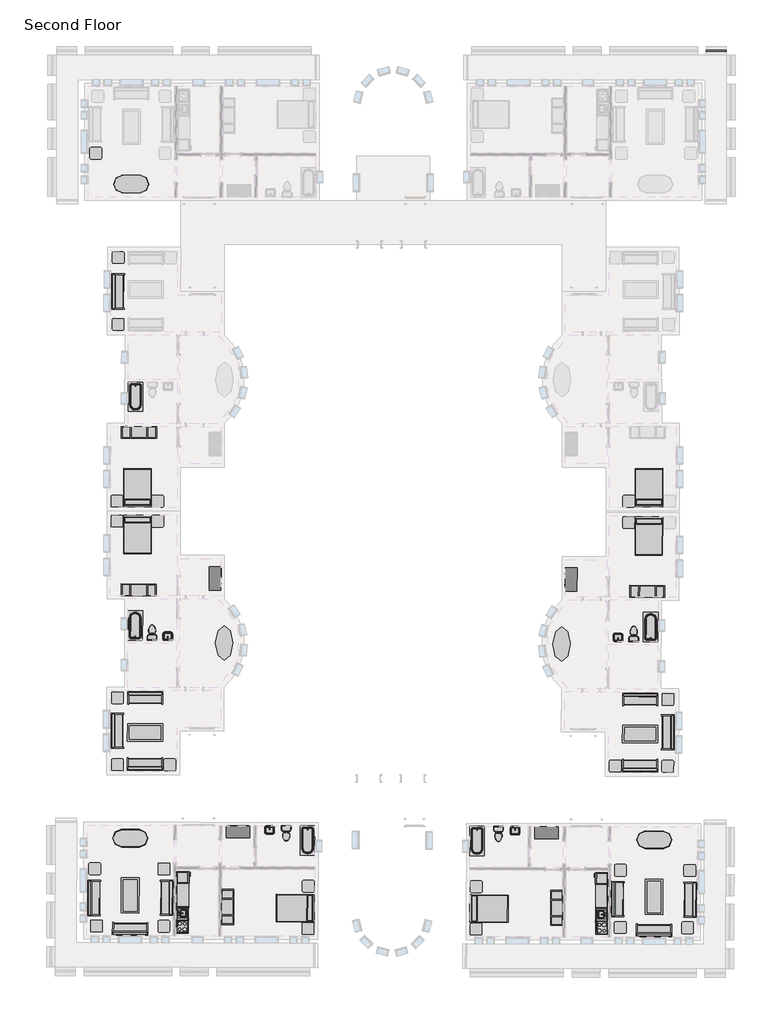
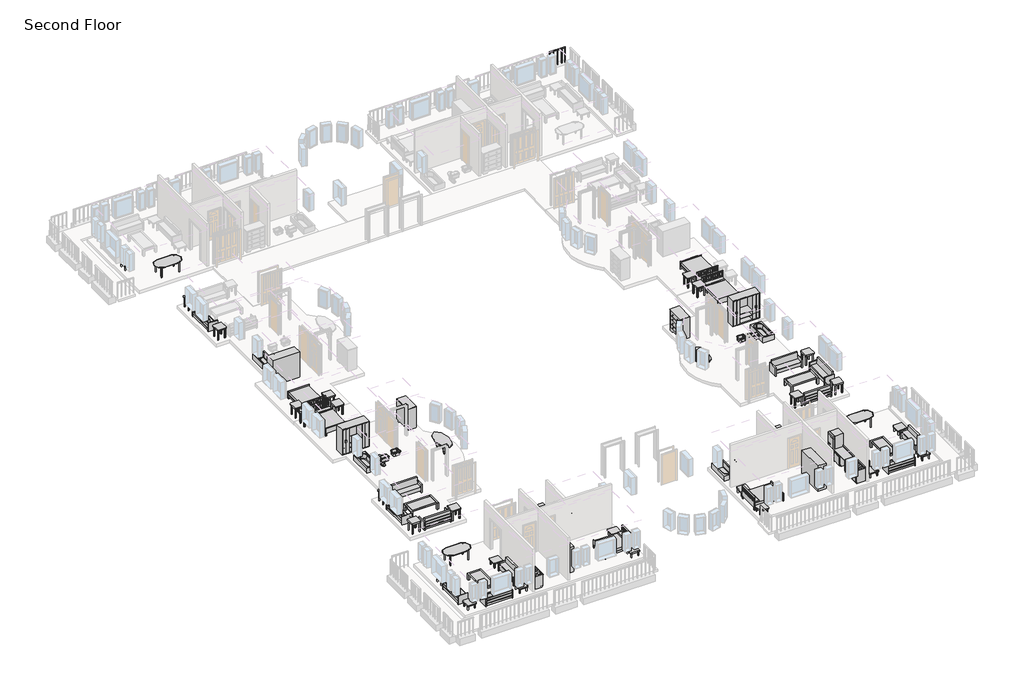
# One storey, part 7 of 8: 66 furniture elements, 15 flow terminals, 8 proxies, 1 railing.
"""IFC4 building model written with IfcOpenShell, lengths in millimetres."""

from ifc_helpers import new_model, si_unit, frame, origin, place, context, project, spatial, polyline, outline, extrude, transform, mapped, element, save
from components import m_cook_top_4_unit2_0615_x_500mm_249f3515, m_cook_top_4_unit2_0615_x_500mm_c91639ce, m_dishwasher_610_x_610_x_875mm_54ecfc4c, m_dishwasher_610_x_610_x_875mm_75336c20, m_kitchenette_medium_1372mm_e05c6bec, m_kitchenette_medium_1372mm_39f1532f, m_refrigerator_600_x_660mm_a466bf94, m_refrigerator_600_x_660mm_0a899b9c, m_sink_kitchen_island_450_x_450mm_f969cf2d, m_sink_kitchen_island_450_x_450mm_f6c2c534, m_sink_vanity_square_500_x_440mm_1e229b74, m_sink_vanity_square_500_x_440mm_f3cfe680, m_toilet_domestic_3d_m_toilet_domestic_3d_5cb52bd4, m_toilet_domestic_3d_m_toilet_domestic_3d_183bbd19, m_toilet_domestic_3d_m_toilet_domestic_3d_43425dfb, m_toilet_domestic_3d_m_toilet_domestic_3d_5530cc89, m_tub_rectangular_3d_m_tub_rectangular_3d_3a981ad5, m_tub_rectangular_3d_m_tub_rectangular_3d_c2020133, m_bed_shaker_1422_x_1981mm_double_096e7f55, m_bed_shaker_1422_x_1981mm_double_097b173b, m_counter_top_w_sink_hole_600mm_depth_1fb56bb9, m_counter_top_w_sink_hole_600mm_depth_7e9aa94d, m_dresser_1220_x_1525_x_0610mm_18e1f140, m_dresser_1220_x_1525_x_0610mm_4e5de046, m_entertainment_center_1830_x_1830_x_0610mm_f77a9b93, m_entertainment_center_1830_x_1830_x_0610mm_4f6058a0, m_sofa_1830mm_58d08fc1, m_sofa_1830mm_3da2e71b, m_sofa1_1830mm_f9e8a66b, m_sofa1_1830mm_493d6964, m_table_coffee_0915_x_1830_x_0457mm_134cd960, m_table_coffee_0915_x_1830_x_0457mm_595c1ebd, m_table_dining_oval_0915_x_1830mm_a7cfbe21, m_table_dining_oval_0915_x_1830mm_ad8305c5, m_table_ellipse_1800_x_900mm_fd46d5a5, m_table_ellipse_1800_x_900mm_f7269293, m_table_end_cb6ea12e, m_table_end_aa2764bc, m_table_end_0610_x_0160mm_e0e5b28f, m_table_end_0610_x_0160mm_ccef8dc9

model = new_model("IFC4")

# Units and contexts
model_context = context("Model", 3, world=origin())
ifc_project = project(units=[si_unit("LENGTHUNIT", "METRE", prefix="MILLI")], contexts=[model_context])

# Site, building, storey
site = spatial("IfcSite", under=ifc_project)
building = spatial("IfcBuilding", under=site)
storey = spatial("IfcBuildingStorey", under=building, Name="Second Floor", Elevation=3048.0)

# Proxies
placement = place(None, origin())
m_cook_top_4_unit2_0615_x_500mm_shape = m_cook_top_4_unit2_0615_x_500mm_249f3515(model_context)
element("IfcBuildingElementProxy", 1, Name="M_Cook Top-4 Unit2 : 0615 x 500mm", ObjectType="M_Cook Top-4 Unit2 : 0615 x 500mm", at=placement, inside=storey, context=model_context, shape_type="MappedRepresentation", body=[
    mapped(m_cook_top_4_unit2_0615_x_500mm_shape, transform((-29921.672142, -41252.4695151, 3048.0), x_axis=(0.0028948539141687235, 0.9999958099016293, 0.0), y_axis=(-0.9999958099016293, 0.0028948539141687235, 0.0), z_axis=(0.0, 0.0, 1.0))),
])
m_cook_top_4_unit2_0615_x_500mm_2_shape = m_cook_top_4_unit2_0615_x_500mm_c91639ce(model_context)
element("IfcBuildingElementProxy", 2, Name="M_Cook Top-4 Unit2 : 0615 x 500mm", ObjectType="M_Cook Top-4 Unit2 : 0615 x 500mm", at=placement, inside=storey, context=model_context, shape_type="MappedRepresentation", body=[
    mapped(m_cook_top_4_unit2_0615_x_500mm_2_shape, transform((-8117.5635037, -41315.5894888, 3048.0), x_axis=(0.0028948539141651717, 0.9999958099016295, 0.0), y_axis=(-0.9999958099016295, 0.0028948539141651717, 0.0), z_axis=(0.0, 0.0, 1.0))),
])
m_dishwasher_610_x_610_x_875mm_shape = m_dishwasher_610_x_610_x_875mm_54ecfc4c(model_context)
element("IfcBuildingElementProxy", 3, Name="M_Dishwasher : 610 x 610 x 875mm", ObjectType="M_Dishwasher : 610 x 610 x 875mm", at=placement, inside=storey, context=model_context, shape_type="MappedRepresentation", body=[
    mapped(m_dishwasher_610_x_610_x_875mm_shape, transform((-29650.5063255, -39692.7654337, 3048.0), x_axis=(0.0028948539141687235, 0.9999958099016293, 0.0), y_axis=(-0.9999958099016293, 0.0028948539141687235, 0.0), z_axis=(0.0, 0.0, 1.0))),
])
m_dishwasher_610_x_610_x_875mm_2_shape = m_dishwasher_610_x_610_x_875mm_75336c20(model_context)
element("IfcBuildingElementProxy", 4, Name="M_Dishwasher : 610 x 610 x 875mm", ObjectType="M_Dishwasher : 610 x 610 x 875mm", at=placement, inside=storey, context=model_context, shape_type="MappedRepresentation", body=[
    mapped(m_dishwasher_610_x_610_x_875mm_2_shape, transform((-8379.6945822, -39754.3415843, 3048.0), x_axis=(0.0028948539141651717, 0.9999958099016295, 0.0), y_axis=(-0.9999958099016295, 0.0028948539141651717, 0.0), z_axis=(0.0, 0.0, 1.0))),
])
m_kitchenette_medium_1372mm_shape = m_kitchenette_medium_1372mm_e05c6bec(model_context)
element("IfcBuildingElementProxy", 5, Name="M_Kitchenette - Medium : 1372mm", ObjectType="M_Kitchenette - Medium : 1372mm", at=placement, inside=storey, context=model_context, shape_type="MappedRepresentation", body=[
    mapped(m_kitchenette_medium_1372mm_shape, transform((-30225.732172, -40927.3256482, 3048.0), x_axis=(0.0028948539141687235, 0.9999958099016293, 0.0), y_axis=(-0.9999958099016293, 0.0028948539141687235, 0.0), z_axis=(0.0, 0.0, 1.0))),
])
m_kitchenette_medium_1372mm_2_shape = m_kitchenette_medium_1372mm_39f1532f(model_context)
element("IfcBuildingElementProxy", 6, Name="M_Kitchenette - Medium : 1372mm", ObjectType="M_Kitchenette - Medium : 1372mm", at=placement, inside=storey, context=model_context, shape_type="MappedRepresentation", body=[
    mapped(m_kitchenette_medium_1372mm_2_shape, transform((-7811.6260897, -40992.2114828, 3048.0), x_axis=(0.0028948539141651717, 0.9999958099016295, 0.0), y_axis=(-0.9999958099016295, 0.0028948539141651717, 0.0), z_axis=(0.0, 0.0, 1.0))),
])
m_refrigerator_600_x_660mm_shape = m_refrigerator_600_x_660mm_a466bf94(model_context)
element("IfcBuildingElementProxy", 7, Name="M_Refrigerator : 600 x 660mm", ObjectType="M_Refrigerator : 600 x 660mm", at=placement, inside=storey, context=model_context, shape_type="MappedRepresentation", body=[
    mapped(m_refrigerator_600_x_660mm_shape, transform((-29922.9251807, -38650.6538432, 3048.0), x_axis=(0.0028948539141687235, 0.9999958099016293, 0.0), y_axis=(-0.9999958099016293, 0.0028948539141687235, 0.0), z_axis=(0.0, 0.0, 1.0))),
])
m_refrigerator_600_x_660mm_2_shape = m_refrigerator_600_x_660mm_0a899b9c(model_context)
element("IfcBuildingElementProxy", 8, Name="M_Refrigerator : 600 x 660mm", ObjectType="M_Refrigerator : 600 x 660mm", at=placement, inside=storey, context=model_context, shape_type="MappedRepresentation", body=[
    mapped(m_refrigerator_600_x_660mm_2_shape, transform((-8101.2467965, -38713.824679, 3048.0), x_axis=(0.0028948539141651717, 0.9999958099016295, 0.0), y_axis=(-0.9999958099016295, 0.0028948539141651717, 0.0), z_axis=(0.0, 0.0, 1.0))),
])

# Flow terminals
m_sink_kitchen_island_450_x_450mm_shape = m_sink_kitchen_island_450_x_450mm_f969cf2d(model_context)
element("IfcFlowTerminal", 9, ObjectType="M_Sink Kitchen-Island : 450 x 450mm", at=placement, inside=storey, context=model_context, shape_type="MappedRepresentation", body=[
    mapped(m_sink_kitchen_island_450_x_450mm_shape, transform((-29917.3862989, -40582.1683539, 3048.0), x_axis=(0.0028948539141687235, 0.9999958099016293, 0.0), y_axis=(-0.9999958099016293, 0.0028948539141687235, 0.0), z_axis=(0.0, 0.0, 1.0))),
])
m_sink_kitchen_island_450_x_450mm_2_shape = m_sink_kitchen_island_450_x_450mm_f6c2c534(model_context)
element("IfcFlowTerminal", 10, ObjectType="M_Sink Kitchen-Island : 450 x 450mm", at=placement, inside=storey, context=model_context, shape_type="MappedRepresentation", body=[
    mapped(m_sink_kitchen_island_450_x_450mm_2_shape, transform((-8117.9684433, -40645.2747484, 3048.0), x_axis=(0.0028948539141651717, 0.9999958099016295, 0.0), y_axis=(-0.9999958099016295, 0.0028948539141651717, 0.0), z_axis=(0.0, 0.0, 1.0))),
])
m_sink_vanity_square_500_x_440mm_shape = m_sink_vanity_square_500_x_440mm_1e229b74(model_context)
element("IfcFlowTerminal", 11, ObjectType="M_Sink Vanity-Square : 500 x 440mm", at=placement, inside=storey, context=model_context, shape_type="MappedRepresentation", body=[
    mapped(m_sink_vanity_square_500_x_440mm_shape, transform((-7255.849628, -26269.4593372, 3048.0), x_axis=(-0.9999905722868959, 0.00434227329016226, 0.0), y_axis=(-0.0043422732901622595, -0.9999905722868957, 0.0), z_axis=(0.0, 0.0, 0.9999999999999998))),
])
element("IfcFlowTerminal", 12, ObjectType="M_Sink Vanity-Square : 500 x 440mm", at=placement, inside=storey, context=model_context, shape_type="MappedRepresentation", body=[
    mapped(m_sink_vanity_square_500_x_440mm_shape, transform((-25398.4470959, -36193.3769715, 3048.0), x_axis=(0.9999958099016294, -0.0028948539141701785, 0.0), y_axis=(0.0028948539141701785, 0.9999958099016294, 0.0), z_axis=(0.0, 0.0, 1.0))),
])
m_sink_vanity_square_500_x_440mm_2_shape = m_sink_vanity_square_500_x_440mm_f3cfe680(model_context)
element("IfcFlowTerminal", 13, ObjectType="M_Sink Vanity-Square : 500 x 440mm", at=placement, inside=storey, context=model_context, shape_type="MappedRepresentation", body=[
    mapped(m_sink_vanity_square_500_x_440mm_2_shape, transform((-12611.4221939, -36230.3936957, 3048.0), x_axis=(-0.9999958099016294, 0.002894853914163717, 0.0), y_axis=(-0.002894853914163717, -0.9999958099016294, 0.0), z_axis=(0.0, 0.0, 1.0))),
])
element("IfcFlowTerminal", 14, ObjectType="M_Sink Vanity-Square : 500 x 440mm", at=placement, inside=storey, context=model_context, shape_type="MappedRepresentation", body=[
    mapped(m_sink_vanity_square_500_x_440mm_2_shape, transform((-30696.2592425, -26201.6024913, 3048.0), x_axis=(0.9999989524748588, -0.001447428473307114, 0.0), y_axis=(0.0014474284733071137, 0.9999989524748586, 0.0), z_axis=(0.0, 0.0, 0.9999999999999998))),
])
m_toilet_domestic_3d_m_toilet_domestic_3d_shape = m_toilet_domestic_3d_m_toilet_domestic_3d_5cb52bd4(model_context)
m_toilet_domestic_3d_m_toilet_domestic_3d_2_shape = m_toilet_domestic_3d_m_toilet_domestic_3d_183bbd19(model_context)
element("IfcFlowTerminal", 15, ObjectType="M_Toilet-Domestic-3D : M_Toilet-Domestic-3D", at=placement, inside=storey, context=model_context, shape_type="MappedRepresentation", body=[
    mapped(m_toilet_domestic_3d_m_toilet_domestic_3d_shape, transform((-24522.1713775, -36508.8406097, 3048.0), x_axis=(0.9999958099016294, -0.00289485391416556, 0.0), y_axis=(0.00289485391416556, 0.9999958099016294, 0.0), z_axis=(0.0, 0.0, 1.0))),
    mapped(m_toilet_domestic_3d_m_toilet_domestic_3d_2_shape, transform((-24522.1713775, -36508.8406097, 3048.0), x_axis=(0.9999958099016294, -0.00289485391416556, 0.0), y_axis=(0.00289485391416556, 0.9999958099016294, 0.0), z_axis=(0.0, 0.0, 1.0))),
])
m_toilet_domestic_3d_m_toilet_domestic_3d_3_shape = m_toilet_domestic_3d_m_toilet_domestic_3d_43425dfb(model_context)
m_toilet_domestic_3d_m_toilet_domestic_3d_4_shape = m_toilet_domestic_3d_m_toilet_domestic_3d_5530cc89(model_context)
element("IfcFlowTerminal", 16, ObjectType="M_Toilet-Domestic-3D : M_Toilet-Domestic-3D", at=placement, inside=storey, context=model_context, shape_type="MappedRepresentation", body=[
    mapped(m_toilet_domestic_3d_m_toilet_domestic_3d_3_shape, transform((-13489.5096603, -36540.7786875, 3048.0), x_axis=(-0.9999958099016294, 0.002894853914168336, 0.0), y_axis=(-0.002894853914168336, -0.9999958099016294, 0.0), z_axis=(0.0, 0.0, 1.0))),
    mapped(m_toilet_domestic_3d_m_toilet_domestic_3d_4_shape, transform((-13489.5096603, -36540.7786875, 3048.0), x_axis=(-0.9999958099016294, 0.002894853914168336, 0.0), y_axis=(-0.002894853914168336, -0.9999958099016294, 0.0), z_axis=(0.0, 0.0, 1.0))),
])
element("IfcFlowTerminal", 17, ObjectType="M_Toilet-Domestic-3D1 : M_Toilet-Domestic-3D", at=placement, inside=storey, context=model_context, shape_type="MappedRepresentation", body=[
    mapped(m_toilet_domestic_3d_m_toilet_domestic_3d_shape, transform((-6457.2243201, -25950.2735511, 3048.0), x_axis=(-0.9999905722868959, 0.00434227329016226, 0.0), y_axis=(-0.0043422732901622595, -0.9999905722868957, 0.0), z_axis=(0.0, 0.0, 0.9999999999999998))),
    mapped(m_toilet_domestic_3d_m_toilet_domestic_3d_2_shape, transform((-6457.2243201, -25950.2735511, 3048.0), x_axis=(-0.9999905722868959, 0.00434227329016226, 0.0), y_axis=(-0.0043422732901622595, -0.9999905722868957, 0.0), z_axis=(0.0, 0.0, 0.9999999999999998))),
])
element("IfcFlowTerminal", 18, ObjectType="M_Toilet-Domestic-3D1 : M_Toilet-Domestic-3D", at=placement, inside=storey, context=model_context, shape_type="MappedRepresentation", body=[
    mapped(m_toilet_domestic_3d_m_toilet_domestic_3d_3_shape, transform((-31493.0231805, -25877.7982671, 3048.0), x_axis=(0.9999989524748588, -0.001447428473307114, 0.0), y_axis=(0.0014474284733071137, 0.9999989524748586, 0.0), z_axis=(0.0, 0.0, 0.9999999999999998))),
    mapped(m_toilet_domestic_3d_m_toilet_domestic_3d_4_shape, transform((-31493.0231805, -25877.7982671, 3048.0), x_axis=(0.9999989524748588, -0.001447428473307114, 0.0), y_axis=(0.0014474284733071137, 0.9999989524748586, 0.0), z_axis=(0.0, 0.0, 0.9999999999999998))),
])
m_tub_rectangular_3d_m_tub_rectangular_3d_shape = m_tub_rectangular_3d_m_tub_rectangular_3d_3a981ad5(model_context)
element("IfcFlowTerminal", 19, ObjectType="M_Tub-Rectangular-3D : M_Tub-Rectangular-3D", at=placement, inside=storey, context=model_context, shape_type="MappedRepresentation", body=[
    mapped(m_tub_rectangular_3d_m_tub_rectangular_3d_shape, transform((-22854.3573612, -37129.57823, 3048.0), x_axis=(-0.0028948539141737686, -0.9999958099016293, 0.0), y_axis=(0.9999958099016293, -0.0028948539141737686, 0.0), z_axis=(0.0, 0.0, 1.0))),
])
element("IfcFlowTerminal", 20, ObjectType="M_Tub-Rectangular-3D : M_Tub-Rectangular-3D", at=placement, inside=storey, context=model_context, shape_type="MappedRepresentation", body=[
    mapped(m_tub_rectangular_3d_m_tub_rectangular_3d_shape, transform((-32926.5841692, -25259.8157014, 3048.0), x_axis=(0.0014474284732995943, 0.9999989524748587, 0.0), y_axis=(-0.9999989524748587, 0.0014474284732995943, 0.0), z_axis=(0.0, 0.0, 1.0))),
])
m_tub_rectangular_3d_m_tub_rectangular_3d_2_shape = m_tub_rectangular_3d_m_tub_rectangular_3d_c2020133(model_context)
element("IfcFlowTerminal", 21, ObjectType="M_Tub-Rectangular-3D : M_Tub-Rectangular-3D", at=placement, inside=storey, context=model_context, shape_type="MappedRepresentation", body=[
    mapped(m_tub_rectangular_3d_m_tub_rectangular_3d_2_shape, transform((-32910.3874532, -14069.8333606, 3048.0), x_axis=(-0.0014474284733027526, -0.9999989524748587, 0.0), y_axis=(0.9999989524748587, -0.0014474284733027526, 0.0), z_axis=(0.0, 0.0, 1.0))),
])
element("IfcFlowTerminal", 22, ObjectType="M_Tub-Rectangular-3D : M_Tub-Rectangular-3D", at=placement, inside=storey, context=model_context, shape_type="MappedRepresentation", body=[
    mapped(m_tub_rectangular_3d_m_tub_rectangular_3d_2_shape, transform((-15160.8895978, -37151.8497886, 3048.0), x_axis=(-0.0028948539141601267, -0.9999958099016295, 0.0), y_axis=(0.9999958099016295, -0.0028948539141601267, 0.0), z_axis=(0.0, 0.0, 1.0))),
])
element("IfcFlowTerminal", 23, ObjectType="M_Tub-Rectangular-3D : M_Tub-Rectangular-3D", at=placement, inside=storey, context=model_context, shape_type="MappedRepresentation", body=[
    mapped(m_tub_rectangular_3d_m_tub_rectangular_3d_2_shape, transform((-5020.1094348, -25340.6012075, 3048.0), x_axis=(0.004342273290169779, 0.9999905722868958, 0.0), y_axis=(-0.9999905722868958, 0.004342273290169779, 0.0), z_axis=(0.0, 0.0, 1.0))),
])

# Furniture
m_bed_shaker_1422_x_1981mm_double_shape = m_bed_shaker_1422_x_1981mm_double_096e7f55(model_context)
element("IfcFurniture", 24, ObjectType="M_Bed-Shaker : 1422 x 1981mm - Double", at=placement, inside=storey, context=model_context, shape_type="MappedRepresentation", body=[
    mapped(m_bed_shaker_1422_x_1981mm_double_shape, transform((-32265.3963493, -19430.7695861, 3048.0), x_axis=(-0.9999989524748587, 0.0014474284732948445, 0.0), y_axis=(-0.0014474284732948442, -0.9999989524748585, 0.0), z_axis=(0.0, 0.0, 0.9999999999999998))),
])
element("IfcFurniture", 25, ObjectType="M_Bed-Shaker : 1422 x 1981mm - Double", at=placement, inside=storey, context=model_context, shape_type="MappedRepresentation", body=[
    mapped(m_bed_shaker_1422_x_1981mm_double_shape, transform((-5649.5787089, -19977.8202898, 3048.0), x_axis=(0.9999905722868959, -0.004342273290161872, 0.0), y_axis=(0.004342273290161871, 0.9999905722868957, 0.0), z_axis=(0.0, 0.0, 0.9999999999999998))),
])
element("IfcFurniture", 26, ObjectType="M_Bed-Shaker : 1422 x 1981mm - Double", at=placement, inside=storey, context=model_context, shape_type="MappedRepresentation", body=[
    mapped(m_bed_shaker_1422_x_1981mm_double_shape, transform((-23068.6004859, -40322.2184362, 3048.0), x_axis=(-0.002894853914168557, -0.9999958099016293, 0.0), y_axis=(0.9999958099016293, -0.002894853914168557, 0.0), z_axis=(0.0, 0.0, 1.0))),
])
m_bed_shaker_1422_x_1981mm_double_2_shape = m_bed_shaker_1422_x_1981mm_double_097b173b(model_context)
element("IfcFurniture", 27, ObjectType="M_Bed-Shaker : 1422 x 1981mm - Double", at=placement, inside=storey, context=model_context, shape_type="MappedRepresentation", body=[
    mapped(m_bed_shaker_1422_x_1981mm_double_2_shape, transform((-5648.7868913, -19430.7695861, 3048.0), x_axis=(0.9999989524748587, 0.0014474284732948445, 0.0), y_axis=(-0.0014474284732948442, 0.9999989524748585, 0.0), z_axis=(0.0, 0.0, 0.9999999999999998))),
])
element("IfcFurniture", 28, ObjectType="M_Bed-Shaker : 1422 x 1981mm - Double", at=placement, inside=storey, context=model_context, shape_type="MappedRepresentation", body=[
    mapped(m_bed_shaker_1422_x_1981mm_double_2_shape, transform((-14965.1344404, -40345.6768849, 3048.0), x_axis=(-0.0028948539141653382, -0.9999958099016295, 0.0), y_axis=(0.9999958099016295, -0.0028948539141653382, 0.0), z_axis=(0.0, 0.0, 1.0))),
])
element("IfcFurniture", 29, ObjectType="M_Bed-Shaker : 1422 x 1981mm - Double", at=placement, inside=storey, context=model_context, shape_type="MappedRepresentation", body=[
    mapped(m_bed_shaker_1422_x_1981mm_double_2_shape, transform((-32266.0766407, -19900.7690938, 3048.0), x_axis=(-0.9999989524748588, 0.0014474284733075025, 0.0), y_axis=(-0.0014474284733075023, -0.9999989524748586, 0.0), z_axis=(0.0, 0.0, 0.9999999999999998))),
])
m_counter_top_w_sink_hole_600mm_depth_shape = m_counter_top_w_sink_hole_600mm_depth_1fb56bb9(model_context)
element("IfcFurniture", 30, ObjectType="M_Counter Top w Sink Hole : 600mm Depth", at=placement, inside=storey, context=model_context, shape_type="MappedRepresentation", body=[
    mapped(m_counter_top_w_sink_hole_600mm_depth_shape, transform((-30224.1886359, -40394.1278824, 3048.0), x_axis=(0.0028948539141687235, 0.9999958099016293, 0.0), y_axis=(-0.9999958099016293, 0.0028948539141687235, 0.0), z_axis=(0.0, 0.0, 1.0))),
])
m_counter_top_w_sink_hole_600mm_depth_2_shape = m_counter_top_w_sink_hole_600mm_depth_7e9aa94d(model_context)
element("IfcFurniture", 31, ObjectType="M_Counter Top w Sink Hole : 600mm Depth", at=placement, inside=storey, context=model_context, shape_type="MappedRepresentation", body=[
    mapped(m_counter_top_w_sink_hole_600mm_depth_2_shape, transform((-7810.0825536, -40459.013717, 3048.0), x_axis=(0.0028948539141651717, 0.9999958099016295, 0.0), y_axis=(-0.9999958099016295, 0.0028948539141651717, 0.0), z_axis=(0.0, 0.0, 1.0))),
])
m_dresser_1220_x_1525_x_0610mm_shape = m_dresser_1220_x_1525_x_0610mm_18e1f140(model_context)
element("IfcFurniture", 32, ObjectType="M_Dresser : 1220 x 1525 x 0610mm", at=placement, inside=storey, context=model_context, shape_type="MappedRepresentation", body=[
    mapped(m_dresser_1220_x_1525_x_0610mm_shape, transform((-9350.5209907, -23482.9760924, 3048.0), x_axis=(-0.004342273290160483, -0.9999905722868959, 0.0), y_axis=(0.9999905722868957, -0.004342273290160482, 0.0), z_axis=(0.0, 0.0, 0.9999999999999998))),
])
element("IfcFurniture", 33, ObjectType="M_Dresser : 1220 x 1525 x 0610mm", at=placement, inside=storey, context=model_context, shape_type="MappedRepresentation", body=[
    mapped(m_dresser_1220_x_1525_x_0610mm_shape, transform((-27295.820683, -36698.2790207, 3048.0), x_axis=(-0.9999958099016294, 0.0028948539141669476, 0.0), y_axis=(-0.0028948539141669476, -0.9999958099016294, 0.0), z_axis=(0.0, 0.0, 1.0))),
])
m_dresser_1220_x_1525_x_0610mm_2_shape = m_dresser_1220_x_1525_x_0610mm_4e5de046(model_context)
element("IfcFurniture", 34, ObjectType="M_Dresser : 1220 x 1525 x 0610mm", at=placement, inside=storey, context=model_context, shape_type="MappedRepresentation", body=[
    mapped(m_dresser_1220_x_1525_x_0610mm_2_shape, transform((-10717.0036305, -36746.2724752, 3048.0), x_axis=(0.9999958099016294, -0.002894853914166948, 0.0), y_axis=(0.002894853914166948, 0.9999958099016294, 0.0), z_axis=(0.0, 0.0, 1.0))),
])
element("IfcFurniture", 35, ObjectType="M_Dresser : 1220 x 1525 x 0610mm", at=placement, inside=storey, context=model_context, shape_type="MappedRepresentation", body=[
    mapped(m_dresser_1220_x_1525_x_0610mm_2_shape, transform((-28585.490131, -23427.2934334, 3048.0), x_axis=(-0.0014474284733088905, -0.9999989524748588, 0.0), y_axis=(0.9999989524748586, -0.0014474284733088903, 0.0), z_axis=(0.0, 0.0, 0.9999999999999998))),
])
m_entertainment_center_1830_x_1830_x_0610mm_shape = m_entertainment_center_1830_x_1830_x_0610mm_f77a9b93(model_context)
element("IfcFurniture", 36, ObjectType="M_Entertainment center : 1830 x 1830 x 0610mm", at=placement, inside=storey, context=model_context, shape_type="MappedRepresentation", body=[
    mapped(m_entertainment_center_1830_x_1830_x_0610mm_shape, transform((-32173.151944, -15980.2994888, 3048.0), x_axis=(-0.9999989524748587, 0.0014474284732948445, 0.0), y_axis=(-0.0014474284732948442, -0.9999989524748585, 0.0), z_axis=(0.0, 0.0, 0.9999999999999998))),
])
element("IfcFurniture", 37, ObjectType="M_Entertainment center : 1830 x 1830 x 0610mm", at=placement, inside=storey, context=model_context, shape_type="MappedRepresentation", body=[
    mapped(m_entertainment_center_1830_x_1830_x_0610mm_shape, transform((-5751.8113346, -23428.0088952, 3048.0), x_axis=(0.9999905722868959, -0.004342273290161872, 0.0), y_axis=(0.004342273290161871, 0.9999905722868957, 0.0), z_axis=(0.0, 0.0, 0.9999999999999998))),
])
element("IfcFurniture", 38, ObjectType="M_Entertainment center : 1830 x 1830 x 0610mm", at=placement, inside=storey, context=model_context, shape_type="MappedRepresentation", body=[
    mapped(m_entertainment_center_1830_x_1830_x_0610mm_shape, transform((-27155.4724705, -40237.537184, 3048.0), x_axis=(-0.0028948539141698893, -0.9999958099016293, 0.0), y_axis=(0.9999958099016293, -0.0028948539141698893, 0.0), z_axis=(0.0, 0.0, 1.0))),
])
m_entertainment_center_1830_x_1830_x_0610mm_2_shape = m_entertainment_center_1830_x_1830_x_0610mm_4f6058a0(model_context)
element("IfcFurniture", 39, ObjectType="M_Entertainment center : 1830 x 1830 x 0610mm", at=placement, inside=storey, context=model_context, shape_type="MappedRepresentation", body=[
    mapped(m_entertainment_center_1830_x_1830_x_0610mm_2_shape, transform((-10877.8406756, -40284.6587476, 3048.0), x_axis=(-0.002894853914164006, -0.9999958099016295, 0.0), y_axis=(0.9999958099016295, -0.002894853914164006, 0.0), z_axis=(0.0, 0.0, 1.0))),
])
element("IfcFurniture", 40, ObjectType="M_Entertainment center : 1830 x 1830 x 0610mm", at=placement, inside=storey, context=model_context, shape_type="MappedRepresentation", body=[
    mapped(m_entertainment_center_1830_x_1830_x_0610mm_2_shape, transform((-32183.8212288, -23351.4917673, 3048.0), x_axis=(-0.9999989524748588, 0.0014474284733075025, 0.0), y_axis=(-0.0014474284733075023, -0.9999989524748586, 0.0), z_axis=(0.0, 0.0, 0.9999999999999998))),
])
m_sofa_1830mm_shape = m_sofa_1830mm_58d08fc1(model_context)
element("IfcFurniture", 41, ObjectType="M_Sofa : 1830mm", at=placement, inside=storey, context=model_context, shape_type="MappedRepresentation", body=[
    mapped(m_sofa_1830mm_shape, transform((-32562.8997947, -41230.7335351, 3048.0), x_axis=(-0.9999958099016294, 0.0028948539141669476, 0.0), y_axis=(-0.0028948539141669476, -0.9999958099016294, 0.0), z_axis=(0.0, 0.0, 1.0))),
])
element("IfcFurniture", 42, ObjectType="M_Sofa : 1830mm", at=placement, inside=storey, context=model_context, shape_type="MappedRepresentation", body=[
    mapped(m_sofa_1830mm_shape, transform((-34355.4280294, -39842.8427064, 3048.0), x_axis=(0.0028948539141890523, 0.9999958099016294, 0.0), y_axis=(-0.9999958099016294, 0.0028948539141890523, 0.0), z_axis=(0.0, 0.0, 1.0))),
])
element("IfcFurniture", 43, ObjectType="M_Sofa : 1830mm", at=placement, inside=storey, context=model_context, shape_type="MappedRepresentation", body=[
    mapped(m_sofa_1830mm_shape, transform((-30883.7111212, -39691.3716975, 3048.0), x_axis=(-0.002894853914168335, -0.9999958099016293, 0.0), y_axis=(0.9999958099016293, -0.002894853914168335, 0.0), z_axis=(0.0, 0.0, 1.0))),
])
m_sofa_1830mm_2_shape = m_sofa_1830mm_3da2e71b(model_context)
element("IfcFurniture", 44, ObjectType="M_Sofa : 1830mm", at=placement, inside=storey, context=model_context, shape_type="MappedRepresentation", body=[
    mapped(m_sofa_1830mm_2_shape, transform((-5476.2542745, -41309.1457454, 3048.0), x_axis=(0.9999958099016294, -0.002894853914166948, 0.0), y_axis=(0.002894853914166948, 0.9999958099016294, 0.0), z_axis=(0.0, 0.0, 1.0))),
])
element("IfcFurniture", 45, ObjectType="M_Sofa : 1830mm", at=placement, inside=storey, context=model_context, shape_type="MappedRepresentation", body=[
    mapped(m_sofa_1830mm_2_shape, transform((-3675.7206344, -39931.6563496, 3048.0), x_axis=(0.002894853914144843, 0.9999958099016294, 0.0), y_axis=(-0.9999958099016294, 0.002894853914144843, 0.0), z_axis=(0.0, 0.0, 1.0))),
])
element("IfcFurniture", 46, ObjectType="M_Sofa : 1830mm", at=placement, inside=storey, context=model_context, shape_type="MappedRepresentation", body=[
    mapped(m_sofa_1830mm_2_shape, transform((-7146.5023862, -39760.087737, 3048.0), x_axis=(-0.0028948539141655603, -0.9999958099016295, 0.0), y_axis=(0.9999958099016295, -0.0028948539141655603, 0.0), z_axis=(0.0, 0.0, 1.0))),
])
m_sofa1_1830mm_shape = m_sofa1_1830mm_f9e8a66b(model_context)
element("IfcFurniture", 47, ObjectType="M_Sofa1 : 1830mm", at=placement, inside=storey, context=model_context, shape_type="MappedRepresentation", body=[
    mapped(m_sofa1_1830mm_shape, transform((-33110.3167447, -8323.9054813, 3048.0), x_axis=(0.0014474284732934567, 0.9999989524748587, 0.0), y_axis=(-0.9999989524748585, 0.0014474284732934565, 0.0), z_axis=(0.0, 0.0, 0.9999999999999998))),
])
element("IfcFurniture", 48, ObjectType="M_Sofa1 : 1830mm", at=placement, inside=storey, context=model_context, shape_type="MappedRepresentation", body=[
    mapped(m_sofa1_1830mm_shape, transform((-4836.8146029, -31087.0837768, 3048.0), x_axis=(-0.004342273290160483, -0.9999905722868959, 0.0), y_axis=(0.9999905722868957, -0.004342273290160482, 0.0), z_axis=(0.0, 0.0, 0.9999999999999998))),
])
element("IfcFurniture", 49, ObjectType="M_Sofa1 : 1830mm", at=placement, inside=storey, context=model_context, shape_type="MappedRepresentation", body=[
    mapped(m_sofa1_1830mm_shape, transform((-6189.5797831, -29598.4702567, 3048.0), x_axis=(0.9999905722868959, -0.004342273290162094, 0.0), y_axis=(0.004342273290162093, 0.9999905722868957, 0.0), z_axis=(0.0, 0.0, 0.9999999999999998))),
])
element("IfcFurniture", 50, ObjectType="M_Sofa1 : 1830mm", at=placement, inside=storey, context=model_context, shape_type="MappedRepresentation", body=[
    mapped(m_sofa1_1830mm_shape, transform((-6062.461585, -32735.9936216, 3048.0), x_axis=(-0.9999905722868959, 0.00434227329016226, 0.0), y_axis=(-0.0043422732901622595, -0.9999905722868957, 0.0), z_axis=(0.0, 0.0, 0.9999999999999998))),
])
m_sofa1_1830mm_2_shape = m_sofa1_1830mm_493d6964(model_context)
element("IfcFurniture", 51, ObjectType="M_Sofa1 : 1830mm", at=placement, inside=storey, context=model_context, shape_type="MappedRepresentation", body=[
    mapped(m_sofa1_1830mm_2_shape, transform((-33143.1462448, -31005.1407385, 3048.0), x_axis=(-0.0014474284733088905, -0.9999989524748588, 0.0), y_axis=(0.9999989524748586, -0.0014474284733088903, 0.0), z_axis=(0.0, 0.0, 0.9999999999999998))),
])
element("IfcFurniture", 52, ObjectType="M_Sofa1 : 1830mm", at=placement, inside=storey, context=model_context, shape_type="MappedRepresentation", body=[
    mapped(m_sofa1_1830mm_2_shape, transform((-31781.7851362, -29524.3842504, 3048.0), x_axis=(-0.9999989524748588, 0.0014474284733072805, 0.0), y_axis=(-0.0014474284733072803, -0.9999989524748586, 0.0), z_axis=(0.0, 0.0, 0.9999999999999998))),
])
element("IfcFurniture", 53, ObjectType="M_Sofa1 : 1830mm", at=placement, inside=storey, context=model_context, shape_type="MappedRepresentation", body=[
    mapped(m_sofa1_1830mm_2_shape, transform((-31927.0664712, -32661.1190552, 3048.0), x_axis=(0.9999989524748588, -0.001447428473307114, 0.0), y_axis=(0.0014474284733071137, 0.9999989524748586, 0.0), z_axis=(0.0, 0.0, 0.9999999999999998))),
])
m_table_coffee_0915_x_1830_x_0457mm_shape = m_table_coffee_0915_x_1830_x_0457mm_134cd960(model_context)
element("IfcFurniture", 54, ObjectType="M_Table-Coffee : 0915 x 1830 x 0457mm", at=placement, inside=storey, context=model_context, shape_type="MappedRepresentation", body=[
    mapped(m_table_coffee_0915_x_1830_x_0457mm_shape, transform((-6145.0704326, -31347.7369995, 3048.0), x_axis=(0.9999905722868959, -0.004342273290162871, 0.0), y_axis=(0.00434227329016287, 0.9999905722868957, 0.0), z_axis=(0.0, 0.0, 0.9999999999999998))),
])
element("IfcFurniture", 55, ObjectType="M_Table-Coffee : 0915 x 1830 x 0457mm", at=placement, inside=storey, context=model_context, shape_type="MappedRepresentation", body=[
    mapped(m_table_coffee_0915_x_1830_x_0457mm_shape, transform((-32723.8138427, -39618.1492872, 3048.0), x_axis=(-0.0028948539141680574, -0.9999958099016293, 0.0), y_axis=(0.9999958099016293, -0.0028948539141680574, 0.0), z_axis=(0.0, 0.0, 1.0))),
])
m_table_coffee_0915_x_1830_x_0457mm_2_shape = m_table_coffee_0915_x_1830_x_0457mm_595c1ebd(model_context)
element("IfcFurniture", 56, ObjectType="M_Table-Coffee : 0915 x 1830 x 0457mm", at=placement, inside=storey, context=model_context, shape_type="MappedRepresentation", body=[
    mapped(m_table_coffee_0915_x_1830_x_0457mm_2_shape, transform((-5306.0065709, -39697.5201665, 3048.0), x_axis=(-0.002894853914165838, -0.9999958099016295, 0.0), y_axis=(0.9999958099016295, -0.002894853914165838, 0.0), z_axis=(0.0, 0.0, 1.0))),
])
element("IfcFurniture", 57, ObjectType="M_Table-Coffee : 0915 x 1830 x 0457mm", at=placement, inside=storey, context=model_context, shape_type="MappedRepresentation", body=[
    mapped(m_table_coffee_0915_x_1830_x_0457mm_2_shape, transform((-31836.4214416, -31273.3639798, 3048.0), x_axis=(-0.9999989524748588, 0.0014474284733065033, 0.0), y_axis=(-0.001447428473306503, -0.9999989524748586, 0.0), z_axis=(0.0, 0.0, 0.9999999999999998))),
])
m_table_dining_oval_0915_x_1830mm_shape = m_table_dining_oval_0915_x_1830mm_a7cfbe21(model_context)
element("IfcFurniture", 58, ObjectType="M_Table-Dining Oval : 0915 x 1830mm", at=placement, inside=storey, context=model_context, shape_type="MappedRepresentation", body=[
    mapped(m_table_dining_oval_0915_x_1830mm_shape, transform((-33022.9144028, -37024.136693, 3048.0), x_axis=(-0.9999958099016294, 0.0028948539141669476, 0.0), y_axis=(-0.0028948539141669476, -0.9999958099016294, 0.0), z_axis=(0.0, 0.0, 1.0))),
])
m_table_dining_oval_0915_x_1830mm_2_shape = m_table_dining_oval_0915_x_1830mm_ad8305c5(model_context)
element("IfcFurniture", 59, ObjectType="M_Table-Dining Oval : 0915 x 1830mm", at=placement, inside=storey, context=model_context, shape_type="MappedRepresentation", body=[
    mapped(m_table_dining_oval_0915_x_1830mm_2_shape, transform((-32972.6612925, -2305.2828007, 3048.0), x_axis=(-1.0, 0.0, 0.0), y_axis=(0.0, -1.0, 0.0), z_axis=(0.0, 0.0, 1.0))),
])
element("IfcFurniture", 60, ObjectType="M_Table-Dining Oval : 0915 x 1830mm", at=placement, inside=storey, context=model_context, shape_type="MappedRepresentation", body=[
    mapped(m_table_dining_oval_0915_x_1830mm_2_shape, transform((-4991.8925118, -37105.2827464, 3048.0), x_axis=(0.9999958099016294, -0.002894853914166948, 0.0), y_axis=(0.002894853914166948, 0.9999958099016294, 0.0), z_axis=(0.0, 0.0, 1.0))),
])
m_table_ellipse_1800_x_900mm_shape = m_table_ellipse_1800_x_900mm_fd46d5a5(model_context)
element("IfcFurniture", 61, ObjectType="M_Table-Ellipse : 1800 x 900mm", at=placement, inside=storey, context=model_context, shape_type="MappedRepresentation", body=[
    mapped(m_table_ellipse_1800_x_900mm_shape, transform((-10207.0715038, -26564.192505, 3048.0), x_axis=(-0.004342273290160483, -0.9999905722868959, 0.0), y_axis=(0.9999905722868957, -0.004342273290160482, 0.0), z_axis=(0.0, 0.0, 0.9999999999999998))),
])
m_table_ellipse_1800_x_900mm_2_shape = m_table_ellipse_1800_x_900mm_f7269293(model_context)
element("IfcFurniture", 62, ObjectType="M_Table-Ellipse : 1800 x 900mm", at=placement, inside=storey, context=model_context, shape_type="MappedRepresentation", body=[
    mapped(m_table_ellipse_1800_x_900mm_2_shape, transform((-27746.793242, -26513.4173601, 3048.0), x_axis=(-0.0014474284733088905, -0.9999989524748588, 0.0), y_axis=(0.9999989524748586, -0.0014474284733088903, 0.0), z_axis=(0.0, 0.0, 0.9999999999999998))),
])
m_table_end_shape = m_table_end_cb6ea12e(model_context)
element("IfcFurniture", 63, ObjectType="M_Table-End : 0610 x 0160mm altered height", at=placement, inside=storey, context=model_context, shape_type="MappedRepresentation", body=[
    mapped(m_table_end_shape, transform((-30569.1071738, -41085.2587623, 3048.0), x_axis=(-0.9999958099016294, 0.0028948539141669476, 0.0), y_axis=(-0.0028948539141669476, -0.9999958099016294, 0.0), z_axis=(0.0, 0.0, 1.0))),
])
element("IfcFurniture", 64, ObjectType="M_Table-End : 0610 x 0160mm altered height", at=placement, inside=storey, context=model_context, shape_type="MappedRepresentation", body=[
    mapped(m_table_end_shape, transform((-34069.0925084, -41075.1267736, 3048.0), x_axis=(-0.9999958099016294, 0.0028948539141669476, 0.0), y_axis=(-0.0028948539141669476, -0.9999958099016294, 0.0), z_axis=(0.0, 0.0, 1.0))),
])
element("IfcFurniture", 65, ObjectType="M_Table-End : 0610 x 0160mm altered height", at=placement, inside=storey, context=model_context, shape_type="MappedRepresentation", body=[
    mapped(m_table_end_shape, transform((-34160.490031, -38103.349739, 3048.0), x_axis=(-0.9999958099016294, 0.0028948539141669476, 0.0), y_axis=(-0.0028948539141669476, -0.9999958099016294, 0.0), z_axis=(0.0, 0.0, 1.0))),
])
element("IfcFurniture", 66, ObjectType="M_Table-End : 0610 x 0160mm altered height", at=placement, inside=storey, context=model_context, shape_type="MappedRepresentation", body=[
    mapped(m_table_end_shape, transform((-30560.5051154, -38113.7712131, 3048.0), x_axis=(-0.9999958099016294, 0.0028948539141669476, 0.0), y_axis=(-0.0028948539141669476, -0.9999958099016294, 0.0), z_axis=(0.0, 0.0, 1.0))),
])
element("IfcFurniture", 67, ObjectType="M_Table-End : 0610 x 0160mm altered height", at=placement, inside=storey, context=model_context, shape_type="MappedRepresentation", body=[
    mapped(m_table_end_shape, transform((-23071.0593728, -39006.955807, 3048.0), x_axis=(-0.9999958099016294, 0.0028948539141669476, 0.0), y_axis=(-0.0028948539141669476, -0.9999958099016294, 0.0), z_axis=(0.0, 0.0, 1.0))),
])
element("IfcFurniture", 68, ObjectType="M_Table-End : 0610 x 0160mm altered height", at=placement, inside=storey, context=model_context, shape_type="MappedRepresentation", body=[
    mapped(m_table_end_shape, transform((-23077.4280514, -41206.9465888, 3048.0), x_axis=(-0.9999958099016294, 0.0028948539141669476, 0.0), y_axis=(-0.0028948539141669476, -0.9999958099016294, 0.0), z_axis=(0.0, 0.0, 1.0))),
])
m_table_end_2_shape = m_table_end_aa2764bc(model_context)
element("IfcFurniture", 69, ObjectType="M_Table-End : 0610 x 0160mm altered height", at=placement, inside=storey, context=model_context, shape_type="MappedRepresentation", body=[
    mapped(m_table_end_2_shape, transform((-34107.10799, -1222.7811614, 3048.0), x_axis=(-1.0, 0.0, 0.0), y_axis=(0.0, -1.0, 0.0), z_axis=(0.0, 0.0, 1.0))),
])
element("IfcFurniture", 70, ObjectType="M_Table-End : 0610 x 0160mm altered height", at=placement, inside=storey, context=model_context, shape_type="MappedRepresentation", body=[
    mapped(m_table_end_2_shape, transform((-7469.1712258, -41152.1299825, 3048.0), x_axis=(0.9999958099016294, -0.002894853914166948, 0.0), y_axis=(0.002894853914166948, 0.9999958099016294, 0.0), z_axis=(0.0, 0.0, 1.0))),
])
element("IfcFurniture", 71, ObjectType="M_Table-End : 0610 x 0160mm altered height", at=placement, inside=storey, context=model_context, shape_type="MappedRepresentation", body=[
    mapped(m_table_end_2_shape, transform((-3969.1858911, -41162.2619711, 3048.0), x_axis=(0.9999958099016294, -0.002894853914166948, 0.0), y_axis=(0.002894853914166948, 0.9999958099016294, 0.0), z_axis=(0.0, 0.0, 1.0))),
])
element("IfcFurniture", 72, ObjectType="M_Table-End : 0610 x 0160mm altered height", at=placement, inside=storey, context=model_context, shape_type="MappedRepresentation", body=[
    mapped(m_table_end_2_shape, transform((-3860.5842517, -38191.0639074, 3048.0), x_axis=(0.9999958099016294, -0.002894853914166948, 0.0), y_axis=(0.002894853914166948, 0.9999958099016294, 0.0), z_axis=(0.0, 0.0, 1.0))),
])
element("IfcFurniture", 73, ObjectType="M_Table-End : 0610 x 0160mm altered height", at=placement, inside=storey, context=model_context, shape_type="MappedRepresentation", body=[
    mapped(m_table_end_2_shape, transform((-7460.5691674, -38180.6424333, 3048.0), x_axis=(0.9999958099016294, -0.002894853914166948, 0.0), y_axis=(0.002894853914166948, 0.9999958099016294, 0.0), z_axis=(0.0, 0.0, 1.0))),
])
element("IfcFurniture", 74, ObjectType="M_Table-End : 0610 x 0160mm altered height", at=placement, inside=storey, context=model_context, shape_type="MappedRepresentation", body=[
    mapped(m_table_end_2_shape, transform((-14955.0606403, -39030.4505361, 3048.0), x_axis=(0.9999958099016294, -0.002894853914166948, 0.0), y_axis=(0.002894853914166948, 0.9999958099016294, 0.0), z_axis=(0.0, 0.0, 1.0))),
])
element("IfcFurniture", 75, ObjectType="M_Table-End : 0610 x 0160mm altered height", at=placement, inside=storey, context=model_context, shape_type="MappedRepresentation", body=[
    mapped(m_table_end_2_shape, transform((-14961.4293189, -41230.4413179, 3048.0), x_axis=(0.9999958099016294, -0.002894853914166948, 0.0), y_axis=(0.002894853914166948, 0.9999958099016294, 0.0), z_axis=(0.0, 0.0, 1.0))),
])
m_table_end_0610_x_0160mm_shape = m_table_end_0610_x_0160mm_e0e5b28f(model_context)
element("IfcFurniture", 76, ObjectType="M_Table-End : 0610 x 0160mm", at=placement, inside=storey, context=model_context, shape_type="MappedRepresentation", body=[
    mapped(m_table_end_0610_x_0160mm_shape, transform((-33160.1808503, -19453.9581041, 3048.0), x_axis=(0.0014474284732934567, 0.9999989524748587, 0.0), y_axis=(-0.9999989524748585, 0.0014474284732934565, 0.0), z_axis=(0.0, 0.0, 0.9999999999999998))),
])
element("IfcFurniture", 77, ObjectType="M_Table-End : 0610 x 0160mm", at=placement, inside=storey, context=model_context, shape_type="MappedRepresentation", body=[
    mapped(m_table_end_0610_x_0160mm_shape, transform((-31040.1830711, -19457.0266525, 3048.0), x_axis=(0.0014474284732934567, 0.9999989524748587, 0.0), y_axis=(-0.9999989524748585, 0.0014474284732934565, 0.0), z_axis=(0.0, 0.0, 0.9999999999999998))),
])
element("IfcFurniture", 78, ObjectType="M_Table-End : 0610 x 0160mm", at=placement, inside=storey, context=model_context, shape_type="MappedRepresentation", body=[
    mapped(m_table_end_0610_x_0160mm_shape, transform((-33106.8837287, -10267.2756246, 3048.0), x_axis=(0.0014474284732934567, 0.9999989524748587, 0.0), y_axis=(-0.9999989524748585, 0.0014474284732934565, 0.0), z_axis=(0.0, 0.0, 0.9999999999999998))),
])
element("IfcFurniture", 79, ObjectType="M_Table-End : 0610 x 0160mm", at=placement, inside=storey, context=model_context, shape_type="MappedRepresentation", body=[
    mapped(m_table_end_0610_x_0160mm_shape, transform((-33101.8611519, -6797.2792595, 3048.0), x_axis=(0.0014474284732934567, 0.9999989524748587, 0.0), y_axis=(-0.9999989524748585, 0.0014474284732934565, 0.0), z_axis=(0.0, 0.0, 0.9999999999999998))),
])
element("IfcFurniture", 80, ObjectType="M_Table-End : 0610 x 0160mm", at=placement, inside=storey, context=model_context, shape_type="MappedRepresentation", body=[
    mapped(m_table_end_0610_x_0160mm_shape, transform((-6874.710843, -19948.01652, 3048.0), x_axis=(-0.004342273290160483, -0.9999905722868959, 0.0), y_axis=(0.9999905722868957, -0.004342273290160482, 0.0), z_axis=(0.0, 0.0, 0.9999999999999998))),
])
element("IfcFurniture", 81, ObjectType="M_Table-End : 0610 x 0160mm", at=placement, inside=storey, context=model_context, shape_type="MappedRepresentation", body=[
    mapped(m_table_end_0610_x_0160mm_shape, transform((-4834.6218318, -29143.7118384, 3048.0), x_axis=(-0.004342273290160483, -0.9999905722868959, 0.0), y_axis=(0.9999905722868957, -0.004342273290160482, 0.0), z_axis=(0.0, 0.0, 0.9999999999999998))),
])
element("IfcFurniture", 82, ObjectType="M_Table-End : 0610 x 0160mm", at=placement, inside=storey, context=model_context, shape_type="MappedRepresentation", body=[
    mapped(m_table_end_0610_x_0160mm_shape, transform((-4849.6895201, -32613.6791242, 3048.0), x_axis=(-0.004342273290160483, -0.9999905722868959, 0.0), y_axis=(0.9999905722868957, -0.004342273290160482, 0.0), z_axis=(0.0, 0.0, 0.9999999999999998))),
])
element("IfcFurniture", 83, ObjectType="M_Table-End : 0610 x 0160mm", at=placement, inside=storey, context=model_context, shape_type="MappedRepresentation", body=[
    mapped(m_table_end_0610_x_0160mm_shape, transform((-7569.6638767, -32601.8681409, 3048.0), x_axis=(-0.004342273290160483, -0.9999905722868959, 0.0), y_axis=(0.9999905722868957, -0.004342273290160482, 0.0), z_axis=(0.0, 0.0, 0.9999999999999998))),
])
m_table_end_0610_x_0160mm_2_shape = m_table_end_0610_x_0160mm_ccef8dc9(model_context)
element("IfcFurniture", 84, ObjectType="M_Table-End : 0610 x 0160mm", at=placement, inside=storey, context=model_context, shape_type="MappedRepresentation", body=[
    mapped(m_table_end_0610_x_0160mm_2_shape, transform((-6874.0001696, -19457.0266525, 3048.0), x_axis=(-0.0014474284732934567, 0.9999989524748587, 0.0), y_axis=(-0.9999989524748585, -0.0014474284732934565, 0.0), z_axis=(0.0, 0.0, 0.9999999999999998))),
])
element("IfcFurniture", 85, ObjectType="M_Table-End : 0610 x 0160mm", at=placement, inside=storey, context=model_context, shape_type="MappedRepresentation", body=[
    mapped(m_table_end_0610_x_0160mm_2_shape, transform((-33160.7902651, -19874.9904025, 3048.0), x_axis=(-0.0014474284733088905, -0.9999989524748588, 0.0), y_axis=(0.9999989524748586, -0.0014474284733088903, 0.0), z_axis=(0.0, 0.0, 0.9999999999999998))),
])
element("IfcFurniture", 86, ObjectType="M_Table-End : 0610 x 0160mm", at=placement, inside=storey, context=model_context, shape_type="MappedRepresentation", body=[
    mapped(m_table_end_0610_x_0160mm_2_shape, transform((-31040.7924859, -19878.0589508, 3048.0), x_axis=(-0.0014474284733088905, -0.9999989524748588, 0.0), y_axis=(0.9999989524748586, -0.0014474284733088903, 0.0), z_axis=(0.0, 0.0, 0.9999999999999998))),
])
element("IfcFurniture", 87, ObjectType="M_Table-End : 0610 x 0160mm", at=placement, inside=storey, context=model_context, shape_type="MappedRepresentation", body=[
    mapped(m_table_end_0610_x_0160mm_2_shape, transform((-33134.0874705, -29061.7886763, 3048.0), x_axis=(-0.0014474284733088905, -0.9999989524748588, 0.0), y_axis=(0.9999989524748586, -0.0014474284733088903, 0.0), z_axis=(0.0, 0.0, 0.9999999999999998))),
])
element("IfcFurniture", 88, ObjectType="M_Table-End : 0610 x 0160mm", at=placement, inside=storey, context=model_context, shape_type="MappedRepresentation", body=[
    mapped(m_table_end_0610_x_0160mm_2_shape, transform((-33139.1100473, -32531.7850414, 3048.0), x_axis=(-0.0014474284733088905, -0.9999989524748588, 0.0), y_axis=(0.9999989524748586, -0.0014474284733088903, 0.0), z_axis=(0.0, 0.0, 0.9999999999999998))),
])
element("IfcFurniture", 89, ObjectType="M_Table-End : 0610 x 0160mm", at=placement, inside=storey, context=model_context, shape_type="MappedRepresentation", body=[
    mapped(m_table_end_0610_x_0160mm_2_shape, transform((-30419.1128966, -32535.7220468, 3048.0), x_axis=(-0.0014474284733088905, -0.9999989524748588, 0.0), y_axis=(0.9999989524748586, -0.0014474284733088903, 0.0), z_axis=(0.0, 0.0, 0.9999999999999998))),
])

# Railing
element("IfcRailing", 90, ObjectType="1100mm", at=placement, inside=storey, context=model_context, shape_type="SweptSolid", body=[
    extrude(outline(polyline([(-2693.3416203, 4231.1188386), (-2693.3416203, 4281.1188386), (-1643.3416203, 4281.1188386), (-1643.3416203, 4231.1188386), (-2693.3416203, 4231.1188386)])), frame((0.0, 0.0, 4098.0), z_axis=(0.0, 0.0, 1.0), x_axis=(1.0, 0.0, 0.0)), (0.0, 0.0, 1.0), 50.0),
    extrude(outline(polyline([(-1880.8416203, 4243.6188386), (-1880.8416203, 4268.6188386), (-1855.8416203, 4268.6188386), (-1855.8416203, 4243.6188386), (-1880.8416203, 4243.6188386)])), frame((0.0, 0.0, 3048.0), z_axis=(0.0, 0.0, 1.0), x_axis=(1.0, 0.0, 0.0)), (0.0, 0.0, 1.0), 1050.0),
    extrude(outline(polyline([(-2155.8416203, 4243.6188386), (-2155.8416203, 4268.6188386), (-2130.8416203, 4268.6188386), (-2130.8416203, 4243.6188386), (-2155.8416203, 4243.6188386)])), frame((0.0, 0.0, 3048.0), z_axis=(0.0, 0.0, 1.0), x_axis=(1.0, 0.0, 0.0)), (0.0, 0.0, 1.0), 1050.0),
    extrude(outline(polyline([(-2430.8416203, 4243.6188386), (-2430.8416203, 4268.6188386), (-2405.8416203, 4268.6188386), (-2405.8416203, 4243.6188386), (-2430.8416203, 4243.6188386)])), frame((0.0, 0.0, 3048.0), z_axis=(0.0, 0.0, 1.0), x_axis=(1.0, 0.0, 0.0)), (0.0, 0.0, 1.0), 1050.0),
    extrude(outline(polyline([(-1668.3416203, 4243.6188386), (-1668.3416203, 4268.6188386), (-1643.3416203, 4268.6188386), (-1643.3416203, 4243.6188386), (-1668.3416203, 4243.6188386)])), frame((0.0, 0.0, 3048.0), z_axis=(0.0, 0.0, 1.0), x_axis=(1.0, 0.0, 0.0)), (0.0, 0.0, 1.0), 1050.0),
    extrude(outline(polyline([(-2693.3416203, 4243.6188386), (-2693.3416203, 4268.6188386), (-2668.3416203, 4268.6188386), (-2668.3416203, 4243.6188386), (-2693.3416203, 4243.6188386)])), frame((0.0, 0.0, 3048.0), z_axis=(0.0, 0.0, 1.0), x_axis=(1.0, 0.0, 0.0)), (0.0, 0.0, 1.0), 1050.0),
])

save(model, "model.ifc")
